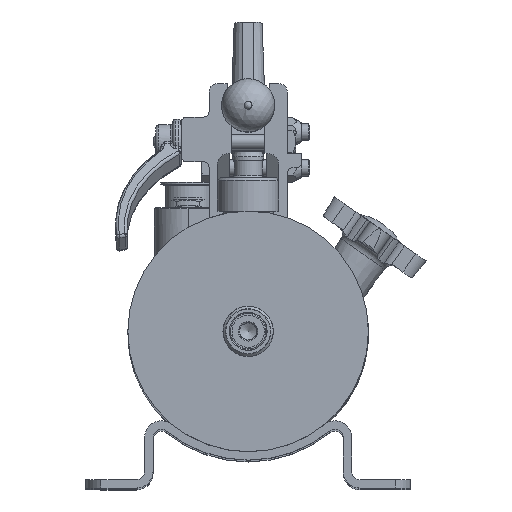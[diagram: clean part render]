
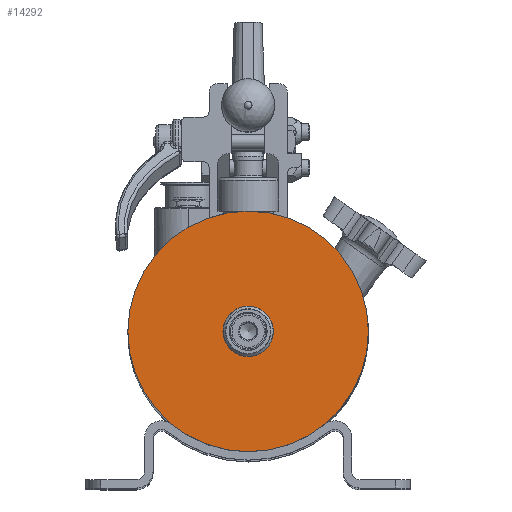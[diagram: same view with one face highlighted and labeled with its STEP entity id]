
A CAD part, top view. The second image highlights one B-rep face of the part: STEP entity #14292.
In plain terms, the highlighted planar face has unit normal (0, 0, 1) as drawn and (0, 0, -1) by its records, which use the part's own axes.
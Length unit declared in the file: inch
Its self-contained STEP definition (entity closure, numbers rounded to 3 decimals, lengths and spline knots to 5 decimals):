
#2866=PLANE($,#15330);
#3273=FACE_BOUND($,#4550,.T.);
#3274=FACE_BOUND($,#4551,.T.);
#4550=EDGE_LOOP($,(#9947));
#4551=EDGE_LOOP($,(#9948));
#5820=CIRCLE($,#15325,0.34375);
#5822=CIRCLE($,#15328,2.6875);
#6509=VERTEX_POINT($,#21250);
#6511=VERTEX_POINT($,#21255);
#7902=EDGE_CURVE($,#6509,#6509,#5820,.T.);
#7904=EDGE_CURVE($,#6511,#6511,#5822,.T.);
#9947=ORIENTED_EDGE($,*,*,#7902,.T.);
#9948=ORIENTED_EDGE($,*,*,#7904,.T.);
#14292=ADVANCED_FACE($,(#3273,#3274),#2866,.T.);
#15325=AXIS2_PLACEMENT_3D($,#21251,#17006,#17007);
#15328=AXIS2_PLACEMENT_3D($,#21256,#17012,#17013);
#15330=AXIS2_PLACEMENT_3D($,#21258,#17016,#17017);
#17006=DIRECTION('center_axis',(0.,0.,1.));
#17007=DIRECTION('ref_axis',(-1.,0.,0.));
#17012=DIRECTION('center_axis',(0.,0.,-1.));
#17013=DIRECTION('ref_axis',(-1.,0.,0.));
#17016=DIRECTION('center_axis',(0.,0.,-1.));
#17017=DIRECTION('ref_axis',(-1.,0.,0.));
#21250=CARTESIAN_POINT('',(0.34375,0.,0.));
#21251=CARTESIAN_POINT('Origin',(0.,0.,0.));
#21255=CARTESIAN_POINT('',(2.6875,0.,0.));
#21256=CARTESIAN_POINT('Origin',(0.,0.,0.));
#21258=CARTESIAN_POINT('Origin',(0.,0.,0.));
